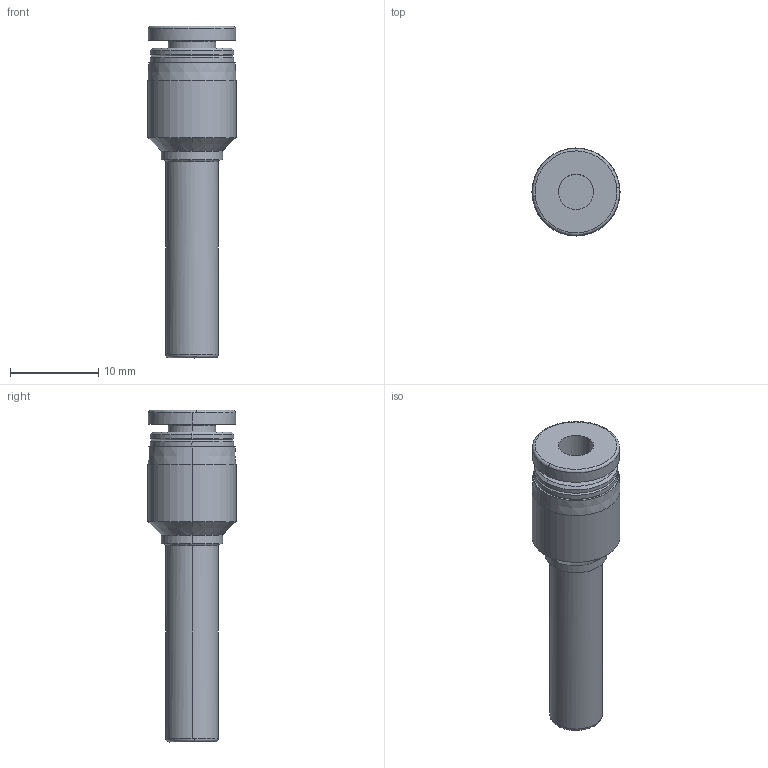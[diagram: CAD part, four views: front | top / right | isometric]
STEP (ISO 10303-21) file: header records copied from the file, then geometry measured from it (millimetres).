
FILE_DESCRIPTION (( 'STEP AP214' ), '1' );
FILE_NAME ('APGJ6-4.STEP', '2019-12-05T08:39:42', ( '微软用户' ), ( '微软中国' ), 'SwSTEP 2.0', 'SolidWorks 2016', '' );
FILE_SCHEMA (( 'AUTOMOTIVE_DESIGN' ));
Length unit declared in the file: millimetre
Products named in the file (1): APGJ6-4
Bounding box: 10 x 10 x 37.7 mm (x, y, z)
Volume: 1497.8 mm3; surface area: 1288.1 mm2
Topology: 1 solids, 1 shells, 45 faces, 104 edges, 64 vertices
Faces by surface type: cylinder 16, cone 14, bspline 8, plane 7
Entity records: 1759 total; most frequent: CARTESIAN_POINT 723, DIRECTION 222, ORIENTED_EDGE 204, EDGE_CURVE 102, AXIS2_PLACEMENT_3D 96, VERTEX_POINT 64, CIRCLE 58, EDGE_LOOP 50
